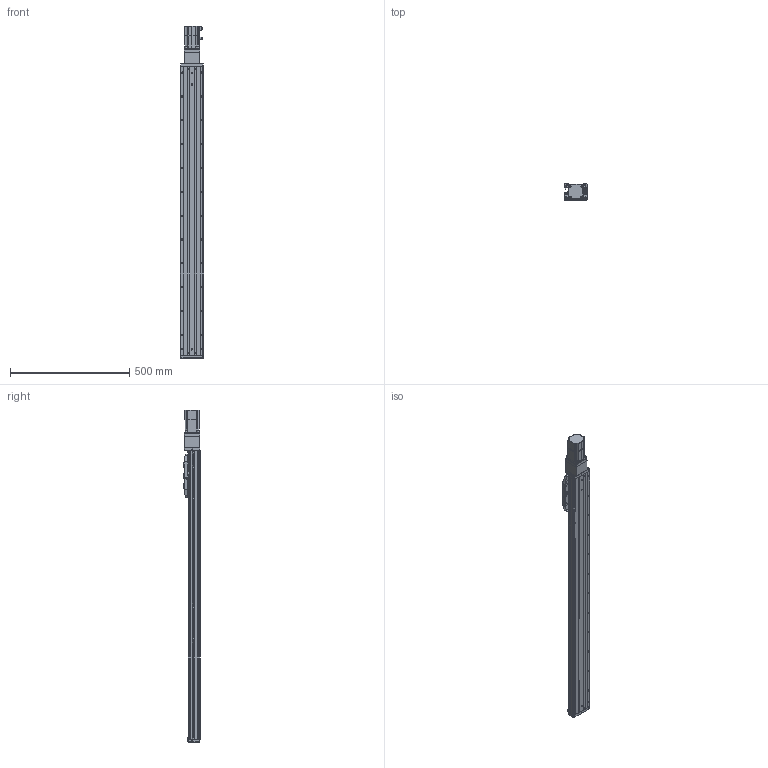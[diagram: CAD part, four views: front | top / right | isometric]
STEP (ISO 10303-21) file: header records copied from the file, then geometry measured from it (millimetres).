
FILE_DESCRIPTION (( 'STEP AP203' ), '1' );
FILE_NAME ('CTHA100-1000-BC-M20-C4L.step', '2022-07-06T08:51:16', ( '微软用户' ), ( '微软中国' ), 'SwSTEP 2.0', 'SolidWorks 2020', '' );
FILE_SCHEMA (( 'CONFIG_CONTROL_DESIGN' ));
Length unit declared in the file: millimetre
Products named in the file (20): GB¨uT 70.2-M3¡Á5_M3¡Á6; CTHA60-016; CTHA100-031; EE_SX911P_R; _X2_4E0983F1_X0_200W_1; CTHA86-030; CTHA60-017; CTHA86-013; CTHA100-1000-BC-M20-C4L; CTHA60-021; CTHA86-027; KTHA100-001_1210; GBT77-2000 M3×3; CTHA86-006-1_CTHA86-006-2; KTHA100-004; GBT 70.1-M3℅6; GBT 70.3-M3℅6; KTHA100-005; GBT70.1 M5℅16; CTHA100-002
Assembly tree (63 placements, depth 2):
  CTHA100-1000-BC-M20-C4L
    KTHA100-001_1210
    KTHA100-004
    KTHA100-005
    GB¨uT 70.2-M3¡Á5_M3¡Á6  x10
    EE_SX911P_R  x3
    CTHA60-017  x3
    CTHA60-021  x2
    GBT77-2000 M3×3  x6
    GBT 70.1-M3℅6  x6
    GBT70.1 M5℅16  x14
    CTHA60-016  x2
    _X2_4E0983F1_X0_200W_1
    CTHA86-013
    CTHA86-027
    CTHA86-006-1_CTHA86-006-2
    GBT 70.3-M3℅6  x6
    CTHA100-002
    CTHA100-031
    CTHA86-030  x2
Bounding box: 98.82 x 68 x 1392.5 mm (x, y, z)
Volume: 4912282 mm3; surface area: 826148.4 mm2
Topology: 65 solids, 65 shells, 2739 faces, 6606 edges, 4084 vertices
Faces by surface type: plane 1435, cylinder 715, cone 384, torus 112, bspline 69, sphere 24
Entity records: 48872 total; most frequent: CARTESIAN_POINT 9122, DIRECTION 7701, ORIENTED_EDGE 7484, EDGE_CURVE 3742, AXIS2_PLACEMENT_3D 2599, LINE 2503, VECTOR 2503, VERTEX_POINT 2362
